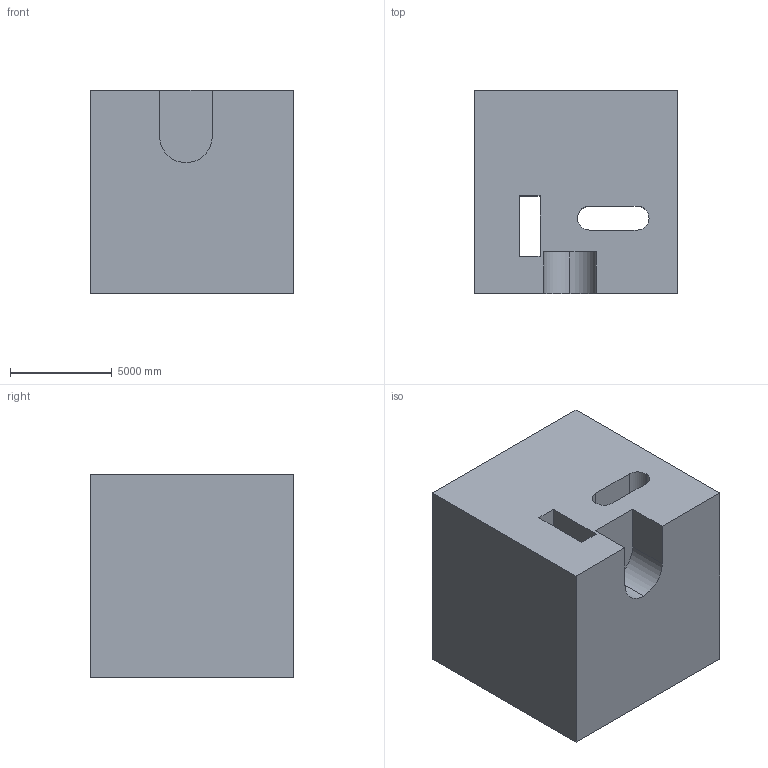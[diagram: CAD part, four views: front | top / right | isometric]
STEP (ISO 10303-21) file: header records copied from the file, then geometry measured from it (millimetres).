
FILE_DESCRIPTION (( 'STEP AP203' ), '1' );
FILE_NAME ('1384.STEP', '2022-08-18T14:09:59', ( 'user' ), ( '' ), 'SwSTEP 2.0', 'SolidWorks 2021', '' );
FILE_SCHEMA (( 'CONFIG_CONTROL_DESIGN' ));
Length unit declared in the file: centimetre
Products named in the file (1): 1384
Bounding box: 10000 x 10000 x 10000 mm (x, y, z)
Volume: 887449623809.9 mm3; surface area: 783878490.6 mm2
Topology: 1 solids, 1 shells, 27 faces, 75 edges, 50 vertices
Faces by surface type: plane 22, cylinder 5
Entity records: 944 total; most frequent: CARTESIAN_POINT 153, ORIENTED_EDGE 150, DIRECTION 141, EDGE_CURVE 75, LINE 65, VECTOR 65, VERTEX_POINT 50, AXIS2_PLACEMENT_3D 38
